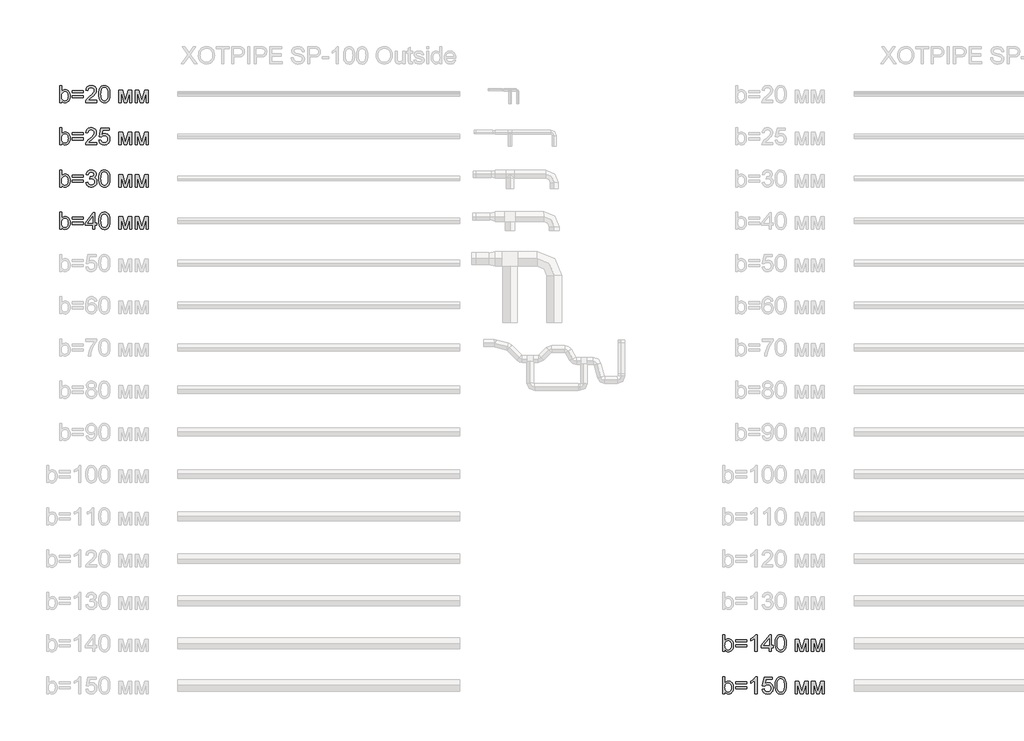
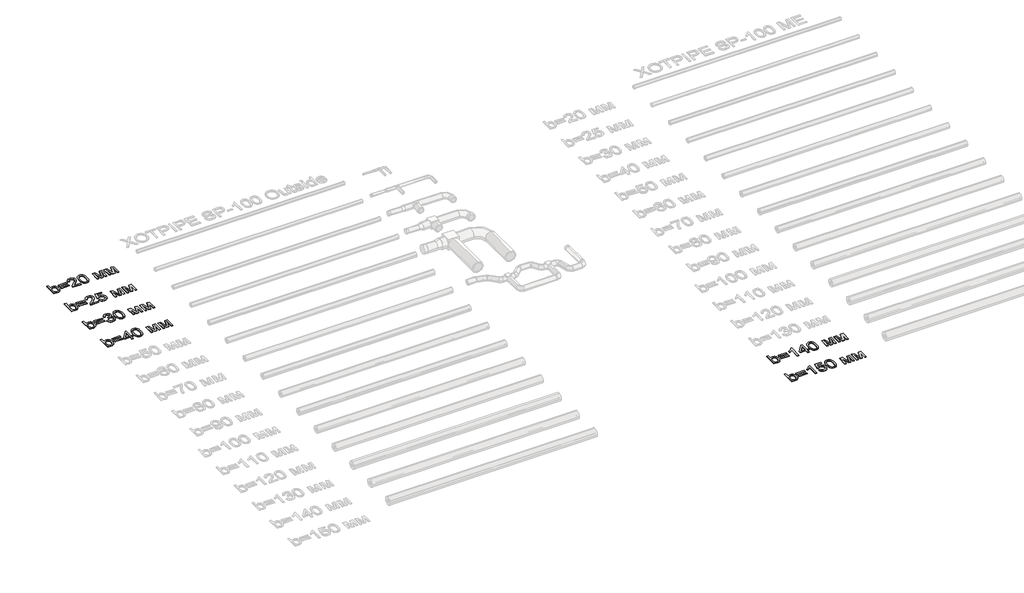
# One storey, part 52 of 86: 6 proxies.
"""IFC4 building model written with IfcOpenShell, lengths in millimetres."""

from ifc_helpers import new_model, si_unit, origin, origin_with_axes, place, context, project, spatial, polyline, outline, extrude, element, save

model = new_model("IFC4")

# Units and contexts
model_context = context("Model", 3, world=origin())
ifc_project = project(units=[si_unit("LENGTHUNIT", "METRE", prefix="MILLI")], contexts=[model_context])

# Site, building, storey
site = spatial("IfcSite", under=ifc_project)
building = spatial("IfcBuilding", under=site)
storey = spatial("IfcBuildingStorey", under=building, Name="Уровень 1", Elevation=0.0)

# Proxies
placement = place(None, origin())
element("IfcBuildingElementProxy", 1, Name="Текст модели 1", ObjectType="Текст модели 1", at=placement, inside=storey, context=model_context, shape_type="SweptSolid", body=[
    extrude(outline(polyline([(23159.6307988, 29169.2937088), (23084.2885662, 29169.2937088), (23084.2885662, 29772.0315697), (23159.6307988, 29772.0315697), (23159.6307988, 29548.5064694), (23184.4076512, 29580.3742473), (23212.3850769, 29603.1369457), (23243.563076, 29616.7945648), (23277.9416484, 29621.3471045), (23316.7531989, 29617.2452202), (23353.4310339, 29604.9395675), (23385.8782258, 29585.2026984), (23411.9978475, 29558.8071653), (23432.4704805, 29526.0104854), (23447.9767066, 29487.0701762), (23457.7439736, 29443.6049185), (23460.9997292, 29397.233393), (23457.6290105, 29343.7249568), (23447.5168541, 29296.6544555), (23430.6632602, 29256.0218892), (23407.0682288, 29221.8272577), (23378.7459136, 29194.7235517), (23347.7104688, 29175.3637617), (23313.9618943, 29163.7478877), (23277.50019, 29159.8759297), (23241.9903805, 29164.8699278), (23210.5088787, 29179.8519221), (23183.0556848, 29204.8219125), (23159.6307988, 29239.7798991), (23159.6307988, 29169.2937088)]), holes=[polyline([(23159.6307988, 29393.7017259), (23164.7811467, 29330.8674811), (23171.2190816, 29307.065516), (23180.2321905, 29288.3403224), (23198.4883345, 29265.0993774), (23219.7059286, 29248.4987024), (23243.8849727, 29238.5382973), (23271.0254669, 29235.2181623), (23293.5582391, 29237.6645776), (23314.5091188, 29245.0038234), (23333.8781058, 29257.2358997), (23351.6652003, 29274.3608066), (23366.5368299, 29296.3325588), (23377.1594225, 29323.105171), (23383.5329781, 29354.6786432), (23385.6574966, 29391.0529755), (23383.6203501, 29428.1170865), (23377.5089104, 29459.9940614), (23367.3231777, 29486.6839001), (23353.0631519, 29508.1866028), (23335.9152524, 29524.7320955), (23317.0658986, 29536.5503046), (23296.5150907, 29543.64123), (23274.2628285, 29546.0048719), (23251.7300563, 29543.5584566), (23230.7791767, 29536.2192108), (23211.4101896, 29523.9871344), (23193.6230951, 29506.8622276), (23178.7514655, 29485.1112046), (23168.1288729, 29459.00078), (23161.7553173, 29428.5309538), (23159.6307988, 29393.7017259)])]), origin_with_axes(), (0.0, 0.0, 1.0), 20.0),
    extrude(outline(polyline([(23931.8886831, 29517.7515346), (23536.3419619, 29517.7515346), (23536.3419619, 29593.0937672), (23931.8886831, 29593.0937672), (23931.8886831, 29517.7515346)])), origin_with_axes(), (0.0, 0.0, 1.0), 20.0),
    extrude(outline(polyline([(23931.8886831, 29338.8137322), (23536.3419619, 29338.8137322), (23536.3419619, 29414.1559648), (23931.8886831, 29414.1559648), (23931.8886831, 29338.8137322)])), origin_with_axes(), (0.0, 0.0, 1.0), 20.0),
    extrude(outline(polyline([(24402.7776369, 29244.6359414), (24402.7776369, 29169.2937088), (24007.2309157, 29169.2937088), (24008.8863847, 29195.8180007), (24015.3243196, 29221.2386465), (24033.9023603, 29261.8344247), (24061.0888398, 29301.2161923), (24100.4154251, 29342.4373698), (24155.4137833, 29388.5513779), (24236.7157043, 29460.7666136), (24285.4968568, 29514.0727147), (24299.724693, 29535.8513288), (24309.8874331, 29557.3356373), (24315.9850772, 29578.5256402), (24318.0176252, 29599.4213376), (24316.1000403, 29619.0800317), (24310.3472856, 29637.1476362), (24300.7593611, 29653.624151), (24287.3362668, 29668.5095763), (24270.8229638, 29680.8382216), (24251.964413, 29689.6443969), (24230.7606145, 29694.928102), (24207.2115683, 29696.6893371), (24182.4025262, 29694.9694888), (24160.2146434, 29689.8099438), (24140.6479198, 29681.2107021), (24123.7023554, 29669.1717638), (24109.9941525, 29654.0977991), (24100.1395136, 29636.3934781), (24094.1384385, 29616.0588008), (24091.9909274, 29593.0937672), (24016.6486948, 29602.5115463), (24023.1280164, 29641.4058703), (24034.9140358, 29675.3889696), (24052.006753, 29704.4608442), (24074.406168, 29728.6214943), (24101.597246, 29747.6134023), (24133.0649521, 29761.1790508), (24168.8092865, 29769.31844), (24208.830249, 29772.0315697), (24249.2098965, 29769.0149373), (24285.1473689, 29759.9650403), (24316.6426662, 29744.8818785), (24343.6957885, 29723.7654519), (24365.4238188, 29698.1792592), (24380.9438405, 29669.6867986), (24390.2558535, 29638.2880704), (24393.3598578, 29603.9830743), (24390.0121317, 29567.9490329), (24379.9689532, 29532.5403908), (24362.1450705, 29496.5247435), (24335.4552318, 29458.6696862), (24292.909679, 29413.4753831), (24227.5186544, 29355.4419984), (24140.8456563, 29282.9692453), (24106.85336, 29244.6359414), (24402.7776369, 29244.6359414)])), origin_with_axes(), (0.0, 0.0, 1.0), 20.0),
    extrude(outline(polyline([(24478.1198695, 29465.8065969), (24483.6564935, 29562.2836501), (24490.5772736, 29603.1967265), (24500.2663656, 29639.2261694), (24512.682383, 29670.6662845), (24527.7839389, 29697.8113772), (24545.5710333, 29720.6614476), (24566.0436664, 29739.2164957), (24589.2708158, 29753.5730906), (24615.3214596, 29763.8278012), (24644.1955977, 29769.9806276), (24675.8932301, 29772.0315697), (24722.3199379, 29767.1755274), (24763.8906034, 29752.6074004), (24798.6554519, 29728.8974058), (24824.664709, 29696.6157607), (24844.3096075, 29656.0383766), (24859.9813805, 29607.4411651), (24870.2452882, 29545.7289604), (24873.6665907, 29465.8065969), (24868.185149, 29369.8813667), (24861.3333468, 29329.106246), (24851.7408238, 29293.1227884), (24839.4213755, 29261.6688778), (24824.3887975, 29234.4823983), (24806.6430897, 29211.56335), (24786.1842523, 29192.9117329), (24762.9295116, 29178.458569), (24736.7960944, 29168.1348805), (24707.7840006, 29161.9406674), (24675.8932301, 29159.8759297), (24634.3961411, 29163.4627792), (24597.6079415, 29174.2233275), (24565.5286316, 29192.1575748), (24538.1582111, 29217.265521), (24511.8914367, 29262.6529621), (24493.1294549, 29319.2056218), (24481.8722659, 29386.9235001), (24478.1198695, 29465.8065969)]), holes=[polyline([(24553.4621021, 29465.9537497), (24555.6693941, 29400.456959), (24562.29127, 29347.440565), (24573.3277299, 29306.9045676), (24588.7787737, 29278.848967), (24607.467179, 29259.7604899), (24628.2157235, 29246.1258635), (24651.0244072, 29237.9450876), (24675.8932301, 29235.2181623), (24700.762053, 29237.9542847), (24723.5707367, 29246.1626517), (24744.3192812, 29259.8432634), (24763.0076866, 29278.9961198), (24778.4587304, 29307.0977057), (24789.4951902, 29347.624506), (24796.1170661, 29400.5765206), (24798.3243581, 29465.9537497), (24796.1906425, 29529.7168965), (24789.7894958, 29581.79979), (24779.120918, 29622.2024301), (24764.184909, 29650.9248169), (24745.8092033, 29670.9467945), (24724.8215355, 29685.248207), (24701.2219055, 29693.8290546), (24675.0103133, 29696.6893371), (24650.2702492, 29694.1693454), (24627.8478415, 29686.6093704), (24607.7430905, 29674.0094121), (24589.955996, 29656.3694704), (24573.9899175, 29625.0995008), (24562.5855756, 29582.9402242), (24555.7429705, 29529.8916405), (24553.4621021, 29465.9537497)])]), origin_with_axes(), (0.0, 0.0, 1.0), 20.0),
    extrude(outline(polyline([(25193.8710793, 29611.9293254), (25323.5126944, 29611.9293254), (25423.4294443, 29257.5853876), (25531.1452925, 29611.9293254), (25655.3422541, 29611.9293254), (25655.3422541, 29169.2937088), (25580.0000215, 29169.2937088), (25580.0000215, 29525.6977857), (25471.6955621, 29169.2937088), (25372.8088818, 29169.2937088), (25269.2133119, 29542.7675103), (25269.2133119, 29169.2937088), (25193.8710793, 29169.2937088), (25193.8710793, 29611.9293254)])), origin_with_axes(), (0.0, 0.0, 1.0), 20.0),
    extrude(outline(polyline([(25768.355603, 29611.9293254), (25897.9972181, 29611.9293254), (25997.913968, 29257.5853876), (26105.6298162, 29611.9293254), (26229.8267777, 29611.9293254), (26229.8267777, 29169.2937088), (26154.4845451, 29169.2937088), (26154.4845451, 29525.6977857), (26046.1800857, 29169.2937088), (25947.2934054, 29169.2937088), (25843.6978356, 29542.7675103), (25843.6978356, 29169.2937088), (25768.355603, 29169.2937088), (25768.355603, 29611.9293254)])), origin_with_axes(), (0.0, 0.0, 1.0), 20.0),
])
element("IfcBuildingElementProxy", 2, Name="Текст модели 1", ObjectType="Текст модели 1", at=placement, inside=storey, context=model_context, shape_type="SweptSolid", body=[
    extrude(outline(polyline([(23159.6307988, 27669.2937088), (23084.2885662, 27669.2937088), (23084.2885662, 28272.0315697), (23159.6307988, 28272.0315697), (23159.6307988, 28048.5064694), (23184.4076512, 28080.3742473), (23212.3850769, 28103.1369457), (23243.563076, 28116.7945648), (23277.9416484, 28121.3471045), (23316.7531989, 28117.2452202), (23353.4310339, 28104.9395675), (23385.8782258, 28085.2026984), (23411.9978475, 28058.8071653), (23432.4704805, 28026.0104854), (23447.9767066, 27987.0701762), (23457.7439736, 27943.6049185), (23460.9997292, 27897.233393), (23457.6290105, 27843.7249568), (23447.5168541, 27796.6544555), (23430.6632602, 27756.0218892), (23407.0682288, 27721.8272577), (23378.7459136, 27694.7235517), (23347.7104688, 27675.3637617), (23313.9618943, 27663.7478877), (23277.50019, 27659.8759297), (23241.9903805, 27664.8699278), (23210.5088787, 27679.8519221), (23183.0556848, 27704.8219125), (23159.6307988, 27739.7798991), (23159.6307988, 27669.2937088)]), holes=[polyline([(23159.6307988, 27893.7017259), (23164.7811467, 27830.8674811), (23171.2190816, 27807.065516), (23180.2321905, 27788.3403224), (23198.4883345, 27765.0993774), (23219.7059286, 27748.4987024), (23243.8849727, 27738.5382973), (23271.0254669, 27735.2181623), (23293.5582391, 27737.6645776), (23314.5091188, 27745.0038234), (23333.8781058, 27757.2358997), (23351.6652003, 27774.3608066), (23366.5368299, 27796.3325588), (23377.1594225, 27823.105171), (23383.5329781, 27854.6786432), (23385.6574966, 27891.0529755), (23383.6203501, 27928.1170865), (23377.5089104, 27959.9940614), (23367.3231777, 27986.6839001), (23353.0631519, 28008.1866028), (23335.9152524, 28024.7320955), (23317.0658986, 28036.5503046), (23296.5150907, 28043.64123), (23274.2628285, 28046.0048719), (23251.7300563, 28043.5584566), (23230.7791767, 28036.2192108), (23211.4101896, 28023.9871344), (23193.6230951, 28006.8622276), (23178.7514655, 27985.1112046), (23168.1288729, 27959.00078), (23161.7553173, 27928.5309538), (23159.6307988, 27893.7017259)])]), origin_with_axes(), (0.0, 0.0, 1.0), 20.0),
    extrude(outline(polyline([(23931.8886831, 28017.7515346), (23536.3419619, 28017.7515346), (23536.3419619, 28093.0937672), (23931.8886831, 28093.0937672), (23931.8886831, 28017.7515346)])), origin_with_axes(), (0.0, 0.0, 1.0), 20.0),
    extrude(outline(polyline([(23931.8886831, 27838.8137322), (23536.3419619, 27838.8137322), (23536.3419619, 27914.1559648), (23931.8886831, 27914.1559648), (23931.8886831, 27838.8137322)])), origin_with_axes(), (0.0, 0.0, 1.0), 20.0),
    extrude(outline(polyline([(24402.7776369, 27744.6359414), (24402.7776369, 27669.2937088), (24007.2309157, 27669.2937088), (24008.8863847, 27695.8180007), (24015.3243196, 27721.2386465), (24033.9023603, 27761.8344247), (24061.0888398, 27801.2161923), (24100.4154251, 27842.4373698), (24155.4137833, 27888.5513779), (24236.7157043, 27960.7666136), (24285.4968568, 28014.0727147), (24299.724693, 28035.8513288), (24309.8874331, 28057.3356373), (24315.9850772, 28078.5256402), (24318.0176252, 28099.4213376), (24316.1000403, 28119.0800317), (24310.3472856, 28137.1476362), (24300.7593611, 28153.624151), (24287.3362668, 28168.5095763), (24270.8229638, 28180.8382216), (24251.964413, 28189.6443969), (24230.7606145, 28194.928102), (24207.2115683, 28196.6893371), (24182.4025262, 28194.9694888), (24160.2146434, 28189.8099438), (24140.6479198, 28181.2107021), (24123.7023554, 28169.1717638), (24109.9941525, 28154.0977991), (24100.1395136, 28136.3934781), (24094.1384385, 28116.0588008), (24091.9909274, 28093.0937672), (24016.6486948, 28102.5115463), (24023.1280164, 28141.4058703), (24034.9140358, 28175.3889696), (24052.006753, 28204.4608442), (24074.406168, 28228.6214943), (24101.597246, 28247.6134023), (24133.0649521, 28261.1790508), (24168.8092865, 28269.31844), (24208.830249, 28272.0315697), (24249.2098965, 28269.0149373), (24285.1473689, 28259.9650403), (24316.6426662, 28244.8818785), (24343.6957885, 28223.7654519), (24365.4238188, 28198.1792592), (24380.9438405, 28169.6867986), (24390.2558535, 28138.2880704), (24393.3598578, 28103.9830743), (24390.0121317, 28067.9490329), (24379.9689532, 28032.5403908), (24362.1450705, 27996.5247435), (24335.4552318, 27958.6696862), (24292.909679, 27913.4753831), (24227.5186544, 27855.4419984), (24140.8456563, 27782.9692453), (24106.85336, 27744.6359414), (24402.7776369, 27744.6359414)])), origin_with_axes(), (0.0, 0.0, 1.0), 20.0),
    extrude(outline(polyline([(24478.1198695, 27829.3959531), (24553.4621021, 27838.8137322), (24559.0906966, 27814.5933013), (24567.2944651, 27793.5826409), (24578.0734076, 27775.7817508), (24591.427524, 27761.1906312), (24607.3292233, 27749.8276761), (24625.7509142, 27741.7112795), (24646.6925967, 27736.8414416), (24670.154271, 27735.2181623), (24698.8490666, 27737.4760381), (24724.1593479, 27744.2496653), (24746.0851148, 27755.539044), (24764.6263674, 27771.3441743), (24779.3692383, 27790.8833067), (24789.8998604, 27813.3746922), (24796.2182337, 27838.8183307), (24798.3243581, 27867.2142222), (24796.3515909, 27894.0512138), (24790.4332893, 27917.9083611), (24780.5694533, 27938.7856644), (24766.7600829, 27956.6831234), (24748.9591929, 27971.0397183), (24727.1207979, 27981.2944289), (24701.2448981, 27987.4472553), (24671.3314934, 27989.4981974), (24634.7824172, 27986.2240476), (24605.1863106, 27976.4015984), (24581.5498925, 27961.3552248), (24562.8798812, 27942.409302), (24487.5376486, 27951.8270811), (24553.4621021, 28262.6137906), (24845.4132535, 28262.6137906), (24845.4132535, 28187.271558), (24614.3833605, 28187.271558), (24582.1568977, 28021.2832018), (24608.7455689, 28040.3394891), (24635.9780336, 28053.951123), (24663.8542918, 28062.1181032), (24692.3743435, 28064.84043), (24729.065974, 28061.4651127), (24762.7685633, 28051.3391608), (24793.4821113, 28034.4625743), (24821.2066182, 28010.8353531), (24844.1578562, 27981.9014342), (24860.5515976, 27949.1047543), (24870.3878424, 27912.4453135), (24873.6665907, 27871.9231117), (24870.7143377, 27832.8908321), (24861.8575787, 27796.5808791), (24847.0963136, 27762.993253), (24826.4305425, 27732.1279536), (24795.1237848, 27700.5176931), (24758.5931026, 27677.9389357), (24716.8384962, 27664.3916812), (24669.8599654, 27659.8759297), (24630.979437, 27662.777599), (24595.8605021, 27671.4826067), (24564.5031605, 27685.9909529), (24536.9074123, 27706.3026375), (24513.9469773, 27731.4059852), (24496.4955752, 27760.2893203), (24484.5532059, 27792.952643), (24478.1198695, 27829.3959531)])), origin_with_axes(), (0.0, 0.0, 1.0), 20.0),
    extrude(outline(polyline([(25193.8710793, 28111.9293254), (25323.5126944, 28111.9293254), (25423.4294443, 27757.5853876), (25531.1452925, 28111.9293254), (25655.3422541, 28111.9293254), (25655.3422541, 27669.2937088), (25580.0000215, 27669.2937088), (25580.0000215, 28025.6977857), (25471.6955621, 27669.2937088), (25372.8088818, 27669.2937088), (25269.2133119, 28042.7675103), (25269.2133119, 27669.2937088), (25193.8710793, 27669.2937088), (25193.8710793, 28111.9293254)])), origin_with_axes(), (0.0, 0.0, 1.0), 20.0),
    extrude(outline(polyline([(25768.355603, 28111.9293254), (25897.9972181, 28111.9293254), (25997.913968, 27757.5853876), (26105.6298162, 28111.9293254), (26229.8267777, 28111.9293254), (26229.8267777, 27669.2937088), (26154.4845451, 27669.2937088), (26154.4845451, 28025.6977857), (26046.1800857, 27669.2937088), (25947.2934054, 27669.2937088), (25843.6978356, 28042.7675103), (25843.6978356, 27669.2937088), (25768.355603, 27669.2937088), (25768.355603, 28111.9293254)])), origin_with_axes(), (0.0, 0.0, 1.0), 20.0),
])
element("IfcBuildingElementProxy", 3, Name="Текст модели 1", ObjectType="Текст модели 1", at=placement, inside=storey, context=model_context, shape_type="SweptSolid", body=[
    extrude(outline(polyline([(23159.6307988, 26169.2937088), (23084.2885662, 26169.2937088), (23084.2885662, 26772.0315697), (23159.6307988, 26772.0315697), (23159.6307988, 26548.5064694), (23184.4076512, 26580.3742473), (23212.3850769, 26603.1369457), (23243.563076, 26616.7945648), (23277.9416484, 26621.3471045), (23316.7531989, 26617.2452202), (23353.4310339, 26604.9395675), (23385.8782258, 26585.2026984), (23411.9978475, 26558.8071653), (23432.4704805, 26526.0104854), (23447.9767066, 26487.0701762), (23457.7439736, 26443.6049185), (23460.9997292, 26397.233393), (23457.6290105, 26343.7249568), (23447.5168541, 26296.6544555), (23430.6632602, 26256.0218892), (23407.0682288, 26221.8272577), (23378.7459136, 26194.7235517), (23347.7104688, 26175.3637617), (23313.9618943, 26163.7478877), (23277.50019, 26159.8759297), (23241.9903805, 26164.8699278), (23210.5088787, 26179.8519221), (23183.0556848, 26204.8219125), (23159.6307988, 26239.7798991), (23159.6307988, 26169.2937088)]), holes=[polyline([(23159.6307988, 26393.7017259), (23164.7811467, 26330.8674811), (23171.2190816, 26307.065516), (23180.2321905, 26288.3403224), (23198.4883345, 26265.0993774), (23219.7059286, 26248.4987024), (23243.8849727, 26238.5382973), (23271.0254669, 26235.2181623), (23293.5582391, 26237.6645776), (23314.5091188, 26245.0038234), (23333.8781058, 26257.2358997), (23351.6652003, 26274.3608066), (23366.5368299, 26296.3325588), (23377.1594225, 26323.105171), (23383.5329781, 26354.6786432), (23385.6574966, 26391.0529755), (23383.6203501, 26428.1170865), (23377.5089104, 26459.9940614), (23367.3231777, 26486.6839001), (23353.0631519, 26508.1866028), (23335.9152524, 26524.7320955), (23317.0658986, 26536.5503046), (23296.5150907, 26543.64123), (23274.2628285, 26546.0048719), (23251.7300563, 26543.5584566), (23230.7791767, 26536.2192108), (23211.4101896, 26523.9871344), (23193.6230951, 26506.8622276), (23178.7514655, 26485.1112046), (23168.1288729, 26459.00078), (23161.7553173, 26428.5309538), (23159.6307988, 26393.7017259)])]), origin_with_axes(), (0.0, 0.0, 1.0), 20.0),
    extrude(outline(polyline([(23931.8886831, 26517.7515346), (23536.3419619, 26517.7515346), (23536.3419619, 26593.0937672), (23931.8886831, 26593.0937672), (23931.8886831, 26517.7515346)])), origin_with_axes(), (0.0, 0.0, 1.0), 20.0),
    extrude(outline(polyline([(23931.8886831, 26338.8137322), (23536.3419619, 26338.8137322), (23536.3419619, 26414.1559648), (23931.8886831, 26414.1559648), (23931.8886831, 26338.8137322)])), origin_with_axes(), (0.0, 0.0, 1.0), 20.0),
    extrude(outline(polyline([(24016.6486948, 26329.3959531), (24091.9909274, 26338.8137322), (24108.8583168, 26291.4673194), (24120.230469, 26273.5606633), (24133.5615928, 26259.498374), (24149.1551909, 26248.8757814), (24167.3147659, 26241.2882153), (24188.0403178, 26236.7356756), (24211.3318466, 26235.2181623), (24238.6286906, 26237.3058927), (24262.9824787, 26243.5690836), (24284.3932108, 26254.0077352), (24302.860887, 26268.6218475), (24317.7325167, 26286.3169715), (24328.3551093, 26305.9986582), (24334.7286648, 26327.6669077), (24336.8531834, 26351.32172), (24334.7470589, 26373.8498937), (24328.4286857, 26394.3455193), (24317.8980636, 26412.808597), (24303.1551926, 26429.2391266), (24285.165763, 26442.7266002), (24264.8954651, 26452.36051), (24242.3442988, 26458.1408558), (24217.5122641, 26460.0676378), (24193.710299, 26458.0074986), (24164.6844096, 26451.8270811), (24173.0721191, 26527.1693137), (24185.1386485, 26526.2863969), (24230.2777694, 26531.6942622), (24270.6344242, 26547.9178582), (24287.2442963, 26560.1867228), (24299.1084907, 26575.3618551), (24306.2270073, 26593.4432551), (24308.5998461, 26614.430923), (24306.8799978, 26631.4684579), (24301.7204528, 26646.9700854), (24293.1212112, 26660.9358057), (24281.0822729, 26673.3656186), (24266.3302049, 26683.5697454), (24249.5915741, 26690.8584075), (24210.1546242, 26696.6893371), (24189.4980502, 26695.2178091), (24170.6440979, 26690.8032252), (24153.5927675, 26683.4455853), (24138.3440588, 26673.1448894), (24125.2750509, 26659.9011376), (24114.7628229, 26643.7143298), (24106.8073747, 26624.584466), (24101.4087064, 26602.5115463), (24026.0664738, 26611.9293254), (24034.9968093, 26647.8989875), (24048.2497581, 26679.5828243), (24065.8253205, 26706.9808359), (24087.7234962, 26730.0930222), (24113.2545067, 26748.4411368), (24141.7285731, 26761.5469328), (24173.1456955, 26769.4104105), (24207.5058739, 26772.0315697), (24254.8706807, 26766.8628277), (24298.3727267, 26751.3566016), (24335.0505616, 26726.8924489), (24361.9427354, 26694.8499271), (24378.4422429, 26657.9329689), (24383.9420787, 26618.8455069), (24378.7181544, 26582.4251894), (24363.0463814, 26549.3893862), (24337.147489, 26521.2464136), (24301.2422062, 26499.5045877), (24326.3501524, 26491.6503071), (24348.404678, 26480.4483003), (24367.4057831, 26465.8985674), (24383.3534676, 26448.0011083), (24395.97182, 26427.1973815), (24404.9849289, 26403.9288453), (24410.3927942, 26378.1954998), (24412.195416, 26349.9973448), (24408.5901724, 26311.7744055), (24397.7744418, 26276.5680986), (24379.748224, 26244.378424), (24354.5115191, 26215.2053818), (24323.7657814, 26190.9987465), (24289.212465, 26173.7082927), (24250.8515699, 26163.3340205), (24208.6830962, 26159.8759297), (24170.5705215, 26162.8281827), (24135.8424612, 26171.6849418), (24104.4989152, 26186.4462068), (24076.5398836, 26207.1119779), (24053.0966034, 26232.4682444), (24035.3003119, 26261.3009958), (24023.151009, 26293.610232), (24016.6486948, 26329.3959531)])), origin_with_axes(), (0.0, 0.0, 1.0), 20.0),
    extrude(outline(polyline([(24478.1198695, 26465.8065969), (24483.6564935, 26562.2836501), (24490.5772736, 26603.1967265), (24500.2663656, 26639.2261694), (24512.682383, 26670.6662845), (24527.7839389, 26697.8113772), (24545.5710333, 26720.6614476), (24566.0436664, 26739.2164957), (24589.2708158, 26753.5730906), (24615.3214596, 26763.8278012), (24644.1955977, 26769.9806276), (24675.8932301, 26772.0315697), (24722.3199379, 26767.1755274), (24763.8906034, 26752.6074004), (24798.6554519, 26728.8974058), (24824.664709, 26696.6157607), (24844.3096075, 26656.0383766), (24859.9813805, 26607.4411651), (24870.2452882, 26545.7289604), (24873.6665907, 26465.8065969), (24868.185149, 26369.8813667), (24861.3333468, 26329.106246), (24851.7408238, 26293.1227884), (24839.4213755, 26261.6688778), (24824.3887975, 26234.4823983), (24806.6430897, 26211.56335), (24786.1842523, 26192.9117329), (24762.9295116, 26178.458569), (24736.7960944, 26168.1348805), (24707.7840006, 26161.9406674), (24675.8932301, 26159.8759297), (24634.3961411, 26163.4627792), (24597.6079415, 26174.2233275), (24565.5286316, 26192.1575748), (24538.1582111, 26217.265521), (24511.8914367, 26262.6529621), (24493.1294549, 26319.2056218), (24481.8722659, 26386.9235001), (24478.1198695, 26465.8065969)]), holes=[polyline([(24553.4621021, 26465.9537497), (24555.6693941, 26400.456959), (24562.29127, 26347.440565), (24573.3277299, 26306.9045676), (24588.7787737, 26278.848967), (24607.467179, 26259.7604899), (24628.2157235, 26246.1258635), (24651.0244072, 26237.9450876), (24675.8932301, 26235.2181623), (24700.762053, 26237.9542847), (24723.5707367, 26246.1626517), (24744.3192812, 26259.8432634), (24763.0076866, 26278.9961198), (24778.4587304, 26307.0977057), (24789.4951902, 26347.624506), (24796.1170661, 26400.5765206), (24798.3243581, 26465.9537497), (24796.1906425, 26529.7168965), (24789.7894958, 26581.79979), (24779.120918, 26622.2024301), (24764.184909, 26650.9248169), (24745.8092033, 26670.9467945), (24724.8215355, 26685.248207), (24701.2219055, 26693.8290546), (24675.0103133, 26696.6893371), (24650.2702492, 26694.1693454), (24627.8478415, 26686.6093704), (24607.7430905, 26674.0094121), (24589.955996, 26656.3694704), (24573.9899175, 26625.0995008), (24562.5855756, 26582.9402242), (24555.7429705, 26529.8916405), (24553.4621021, 26465.9537497)])]), origin_with_axes(), (0.0, 0.0, 1.0), 20.0),
    extrude(outline(polyline([(25193.8710793, 26611.9293254), (25323.5126944, 26611.9293254), (25423.4294443, 26257.5853876), (25531.1452925, 26611.9293254), (25655.3422541, 26611.9293254), (25655.3422541, 26169.2937088), (25580.0000215, 26169.2937088), (25580.0000215, 26525.6977857), (25471.6955621, 26169.2937088), (25372.8088818, 26169.2937088), (25269.2133119, 26542.7675103), (25269.2133119, 26169.2937088), (25193.8710793, 26169.2937088), (25193.8710793, 26611.9293254)])), origin_with_axes(), (0.0, 0.0, 1.0), 20.0),
    extrude(outline(polyline([(25768.355603, 26611.9293254), (25897.9972181, 26611.9293254), (25997.913968, 26257.5853876), (26105.6298162, 26611.9293254), (26229.8267777, 26611.9293254), (26229.8267777, 26169.2937088), (26154.4845451, 26169.2937088), (26154.4845451, 26525.6977857), (26046.1800857, 26169.2937088), (25947.2934054, 26169.2937088), (25843.6978356, 26542.7675103), (25843.6978356, 26169.2937088), (25768.355603, 26169.2937088), (25768.355603, 26611.9293254)])), origin_with_axes(), (0.0, 0.0, 1.0), 20.0),
])
element("IfcBuildingElementProxy", 4, Name="Текст модели 1", ObjectType="Текст модели 1", at=placement, inside=storey, context=model_context, shape_type="SweptSolid", body=[
    extrude(outline(polyline([(23159.6307988, 24669.2937088), (23084.2885662, 24669.2937088), (23084.2885662, 25272.0315697), (23159.6307988, 25272.0315697), (23159.6307988, 25048.5064694), (23184.4076512, 25080.3742473), (23212.3850769, 25103.1369457), (23243.563076, 25116.7945648), (23277.9416484, 25121.3471045), (23316.7531989, 25117.2452202), (23353.4310339, 25104.9395675), (23385.8782258, 25085.2026984), (23411.9978475, 25058.8071653), (23432.4704805, 25026.0104854), (23447.9767066, 24987.0701762), (23457.7439736, 24943.6049185), (23460.9997292, 24897.233393), (23457.6290105, 24843.7249568), (23447.5168541, 24796.6544555), (23430.6632602, 24756.0218892), (23407.0682288, 24721.8272577), (23378.7459136, 24694.7235517), (23347.7104688, 24675.3637617), (23313.9618943, 24663.7478877), (23277.50019, 24659.8759297), (23241.9903805, 24664.8699278), (23210.5088787, 24679.8519221), (23183.0556848, 24704.8219125), (23159.6307988, 24739.7798991), (23159.6307988, 24669.2937088)]), holes=[polyline([(23159.6307988, 24893.7017259), (23164.7811467, 24830.8674811), (23171.2190816, 24807.065516), (23180.2321905, 24788.3403224), (23198.4883345, 24765.0993774), (23219.7059286, 24748.4987024), (23243.8849727, 24738.5382973), (23271.0254669, 24735.2181623), (23293.5582391, 24737.6645776), (23314.5091188, 24745.0038234), (23333.8781058, 24757.2358997), (23351.6652003, 24774.3608066), (23366.5368299, 24796.3325588), (23377.1594225, 24823.105171), (23383.5329781, 24854.6786432), (23385.6574966, 24891.0529755), (23383.6203501, 24928.1170865), (23377.5089104, 24959.9940614), (23367.3231777, 24986.6839001), (23353.0631519, 25008.1866028), (23335.9152524, 25024.7320955), (23317.0658986, 25036.5503046), (23296.5150907, 25043.64123), (23274.2628285, 25046.0048719), (23251.7300563, 25043.5584566), (23230.7791767, 25036.2192108), (23211.4101896, 25023.9871344), (23193.6230951, 25006.8622276), (23178.7514655, 24985.1112046), (23168.1288729, 24959.00078), (23161.7553173, 24928.5309538), (23159.6307988, 24893.7017259)])]), origin_with_axes(), (0.0, 0.0, 1.0), 20.0),
    extrude(outline(polyline([(23931.8886831, 25017.7515346), (23536.3419619, 25017.7515346), (23536.3419619, 25093.0937672), (23931.8886831, 25093.0937672), (23931.8886831, 25017.7515346)])), origin_with_axes(), (0.0, 0.0, 1.0), 20.0),
    extrude(outline(polyline([(23931.8886831, 24838.8137322), (23536.3419619, 24838.8137322), (23536.3419619, 24914.1559648), (23931.8886831, 24914.1559648), (23931.8886831, 24838.8137322)])), origin_with_axes(), (0.0, 0.0, 1.0), 20.0),
    extrude(outline(polyline([(24261.5109507, 24669.2937088), (24261.5109507, 24810.5603949), (23988.3953575, 24810.5603949), (23988.3953575, 24885.9026276), (24280.3465089, 25262.6137906), (24336.8531834, 25262.6137906), (24336.8531834, 24885.9026276), (24412.195416, 24885.9026276), (24412.195416, 24810.5603949), (24336.8531834, 24810.5603949), (24336.8531834, 24669.2937088), (24261.5109507, 24669.2937088)]), holes=[polyline([(24261.5109507, 24885.9026276), (24261.5109507, 25118.6983541), (24081.1016203, 24885.9026276), (24261.5109507, 24885.9026276)])]), origin_with_axes(), (0.0, 0.0, 1.0), 20.0),
    extrude(outline(polyline([(24478.1198695, 24965.8065969), (24483.6564935, 25062.2836501), (24490.5772736, 25103.1967265), (24500.2663656, 25139.2261694), (24512.682383, 25170.6662845), (24527.7839389, 25197.8113772), (24545.5710333, 25220.6614476), (24566.0436664, 25239.2164957), (24589.2708158, 25253.5730906), (24615.3214596, 25263.8278012), (24644.1955977, 25269.9806276), (24675.8932301, 25272.0315697), (24722.3199379, 25267.1755274), (24763.8906034, 25252.6074004), (24798.6554519, 25228.8974058), (24824.664709, 25196.6157607), (24844.3096075, 25156.0383766), (24859.9813805, 25107.4411651), (24870.2452882, 25045.7289604), (24873.6665907, 24965.8065969), (24868.185149, 24869.8813667), (24861.3333468, 24829.106246), (24851.7408238, 24793.1227884), (24839.4213755, 24761.6688778), (24824.3887975, 24734.4823983), (24806.6430897, 24711.56335), (24786.1842523, 24692.9117329), (24762.9295116, 24678.458569), (24736.7960944, 24668.1348805), (24707.7840006, 24661.9406674), (24675.8932301, 24659.8759297), (24634.3961411, 24663.4627792), (24597.6079415, 24674.2233275), (24565.5286316, 24692.1575748), (24538.1582111, 24717.265521), (24511.8914367, 24762.6529621), (24493.1294549, 24819.2056218), (24481.8722659, 24886.9235001), (24478.1198695, 24965.8065969)]), holes=[polyline([(24553.4621021, 24965.9537497), (24555.6693941, 24900.456959), (24562.29127, 24847.440565), (24573.3277299, 24806.9045676), (24588.7787737, 24778.848967), (24607.467179, 24759.7604899), (24628.2157235, 24746.1258635), (24651.0244072, 24737.9450876), (24675.8932301, 24735.2181623), (24700.762053, 24737.9542847), (24723.5707367, 24746.1626517), (24744.3192812, 24759.8432634), (24763.0076866, 24778.9961198), (24778.4587304, 24807.0977057), (24789.4951902, 24847.624506), (24796.1170661, 24900.5765206), (24798.3243581, 24965.9537497), (24796.1906425, 25029.7168965), (24789.7894958, 25081.79979), (24779.120918, 25122.2024301), (24764.184909, 25150.9248169), (24745.8092033, 25170.9467945), (24724.8215355, 25185.248207), (24701.2219055, 25193.8290546), (24675.0103133, 25196.6893371), (24650.2702492, 25194.1693454), (24627.8478415, 25186.6093704), (24607.7430905, 25174.0094121), (24589.955996, 25156.3694704), (24573.9899175, 25125.0995008), (24562.5855756, 25082.9402242), (24555.7429705, 25029.8916405), (24553.4621021, 24965.9537497)])]), origin_with_axes(), (0.0, 0.0, 1.0), 20.0),
    extrude(outline(polyline([(25193.8710793, 25111.9293254), (25323.5126944, 25111.9293254), (25423.4294443, 24757.5853876), (25531.1452925, 25111.9293254), (25655.3422541, 25111.9293254), (25655.3422541, 24669.2937088), (25580.0000215, 24669.2937088), (25580.0000215, 25025.6977857), (25471.6955621, 24669.2937088), (25372.8088818, 24669.2937088), (25269.2133119, 25042.7675103), (25269.2133119, 24669.2937088), (25193.8710793, 24669.2937088), (25193.8710793, 25111.9293254)])), origin_with_axes(), (0.0, 0.0, 1.0), 20.0),
    extrude(outline(polyline([(25768.355603, 25111.9293254), (25897.9972181, 25111.9293254), (25997.913968, 24757.5853876), (26105.6298162, 25111.9293254), (26229.8267777, 25111.9293254), (26229.8267777, 24669.2937088), (26154.4845451, 24669.2937088), (26154.4845451, 25025.6977857), (26046.1800857, 24669.2937088), (25947.2934054, 24669.2937088), (25843.6978356, 25042.7675103), (25843.6978356, 24669.2937088), (25768.355603, 24669.2937088), (25768.355603, 25111.9293254)])), origin_with_axes(), (0.0, 0.0, 1.0), 20.0),
])
element("IfcBuildingElementProxy", 5, Name="Текст модели 1", ObjectType="Текст модели 1", at=placement, inside=storey, context=model_context, shape_type="SweptSolid", body=[
    extrude(outline(polyline([(46698.159624, 9669.2937088), (46622.8173914, 9669.2937088), (46622.8173914, 10272.0315697), (46698.159624, 10272.0315697), (46698.159624, 10048.5064694), (46722.9364764, 10080.3742473), (46750.9139022, 10103.1369457), (46782.0919012, 10116.7945648), (46816.4704737, 10121.3471045), (46855.2820242, 10117.2452202), (46891.9598591, 10104.9395675), (46924.4070511, 10085.2026984), (46950.5266727, 10058.8071653), (46970.9993058, 10026.0104854), (46986.5055319, 9987.0701762), (46996.2727988, 9943.6049185), (46999.5285545, 9897.233393), (46996.1578357, 9843.7249568), (46986.0456794, 9796.6544555), (46969.1920855, 9756.0218892), (46945.597054, 9721.8272577), (46917.2747389, 9694.7235517), (46886.2392941, 9675.3637617), (46852.4907195, 9663.7478877), (46816.0290153, 9659.8759297), (46780.5192057, 9664.8699278), (46749.037704, 9679.8519221), (46721.5845101, 9704.8219125), (46698.159624, 9739.7798991), (46698.159624, 9669.2937088)]), holes=[polyline([(46698.159624, 9893.7017259), (46703.309972, 9830.8674811), (46709.7479069, 9807.065516), (46718.7610158, 9788.3403224), (46737.0171598, 9765.0993774), (46758.2347539, 9748.4987024), (46782.413798, 9738.5382973), (46809.5542922, 9735.2181623), (46832.0870644, 9737.6645776), (46853.037944, 9745.0038234), (46872.4069311, 9757.2358997), (46890.1940255, 9774.3608066), (46905.0656552, 9796.3325588), (46915.6882478, 9823.105171), (46922.0618034, 9854.6786432), (46924.1863219, 9891.0529755), (46922.1491753, 9928.1170865), (46916.0377357, 9959.9940614), (46905.8520029, 9986.6839001), (46891.5919771, 10008.1866028), (46874.4440776, 10024.7320955), (46855.5947239, 10036.5503046), (46835.0439159, 10043.64123), (46812.7916537, 10046.0048719), (46790.2588815, 10043.5584566), (46769.3080019, 10036.2192108), (46749.9390149, 10023.9871344), (46732.1519204, 10006.8622276), (46717.2802907, 9985.1112046), (46706.6576981, 9959.00078), (46700.2841426, 9928.5309538), (46698.159624, 9893.7017259)])]), origin_with_axes(), (0.0, 0.0, 1.0), 20.0),
    extrude(outline(polyline([(47470.4175083, 10017.7515346), (47074.8707871, 10017.7515346), (47074.8707871, 10093.0937672), (47470.4175083, 10093.0937672), (47470.4175083, 10017.7515346)])), origin_with_axes(), (0.0, 0.0, 1.0), 20.0),
    extrude(outline(polyline([(47470.4175083, 9838.8137322), (47074.8707871, 9838.8137322), (47074.8707871, 9914.1559648), (47470.4175083, 9914.1559648), (47470.4175083, 9838.8137322)])), origin_with_axes(), (0.0, 0.0, 1.0), 20.0),
    extrude(outline(polyline([(47837.7108923, 9669.2937088), (47762.3686597, 9669.2937088), (47762.3686597, 10139.0054402), (47730.9147491, 10113.5664003), (47690.9995526, 10088.1641485), (47649.0977934, 10065.9624701), (47611.6841945, 10050.1251502), (47611.6841945, 10121.3471045), (47670.8580134, 10153.5367791), (47722.1223694, 10191.8332947), (47762.5342066, 10232.5578316), (47789.1504689, 10272.0315697), (47837.7108923, 10272.0315697), (47837.7108923, 9669.2937088)])), origin_with_axes(), (0.0, 0.0, 1.0), 20.0),
    extrude(outline(polyline([(48261.5109507, 9669.2937088), (48261.5109507, 9810.5603949), (47988.3953575, 9810.5603949), (47988.3953575, 9885.9026276), (48280.3465089, 10262.6137906), (48336.8531834, 10262.6137906), (48336.8531834, 9885.9026276), (48412.195416, 9885.9026276), (48412.195416, 9810.5603949), (48336.8531834, 9810.5603949), (48336.8531834, 9669.2937088), (48261.5109507, 9669.2937088)]), holes=[polyline([(48261.5109507, 9885.9026276), (48261.5109507, 10118.6983541), (48081.1016203, 9885.9026276), (48261.5109507, 9885.9026276)])]), origin_with_axes(), (0.0, 0.0, 1.0), 20.0),
    extrude(outline(polyline([(48478.1198695, 9965.8065969), (48483.6564935, 10062.2836501), (48490.5772736, 10103.1967265), (48500.2663656, 10139.2261694), (48512.682383, 10170.6662845), (48527.7839389, 10197.8113772), (48545.5710333, 10220.6614476), (48566.0436664, 10239.2164957), (48589.2708158, 10253.5730906), (48615.3214596, 10263.8278012), (48644.1955977, 10269.9806276), (48675.8932301, 10272.0315697), (48722.3199379, 10267.1755274), (48763.8906034, 10252.6074004), (48798.6554519, 10228.8974058), (48824.664709, 10196.6157607), (48844.3096075, 10156.0383766), (48859.9813805, 10107.4411651), (48870.2452882, 10045.7289604), (48873.6665907, 9965.8065969), (48868.185149, 9869.8813667), (48861.3333468, 9829.106246), (48851.7408238, 9793.1227884), (48839.4213755, 9761.6688778), (48824.3887975, 9734.4823983), (48806.6430897, 9711.56335), (48786.1842523, 9692.9117329), (48762.9295116, 9678.458569), (48736.7960944, 9668.1348805), (48707.7840006, 9661.9406674), (48675.8932301, 9659.8759297), (48634.3961411, 9663.4627792), (48597.6079415, 9674.2233275), (48565.5286316, 9692.1575748), (48538.1582111, 9717.265521), (48511.8914367, 9762.6529621), (48493.1294549, 9819.2056218), (48481.8722659, 9886.9235001), (48478.1198695, 9965.8065969)]), holes=[polyline([(48553.4621021, 9965.9537497), (48555.6693941, 9900.456959), (48562.29127, 9847.440565), (48573.3277299, 9806.9045676), (48588.7787737, 9778.848967), (48607.467179, 9759.7604899), (48628.2157235, 9746.1258635), (48651.0244072, 9737.9450876), (48675.8932301, 9735.2181623), (48700.762053, 9737.9542847), (48723.5707367, 9746.1626517), (48744.3192812, 9759.8432634), (48763.0076866, 9778.9961198), (48778.4587304, 9807.0977057), (48789.4951902, 9847.624506), (48796.1170661, 9900.5765206), (48798.3243581, 9965.9537497), (48796.1906425, 10029.7168965), (48789.7894958, 10081.79979), (48779.120918, 10122.2024301), (48764.184909, 10150.9248169), (48745.8092033, 10170.9467945), (48724.8215355, 10185.248207), (48701.2219055, 10193.8290546), (48675.0103133, 10196.6893371), (48650.2702492, 10194.1693454), (48627.8478415, 10186.6093704), (48607.7430905, 10174.0094121), (48589.955996, 10156.3694704), (48573.9899175, 10125.0995008), (48562.5855756, 10082.9402242), (48555.7429705, 10029.8916405), (48553.4621021, 9965.9537497)])]), origin_with_axes(), (0.0, 0.0, 1.0), 20.0),
    extrude(outline(polyline([(49193.8710793, 10111.9293254), (49323.5126944, 10111.9293254), (49423.4294443, 9757.5853876), (49531.1452925, 10111.9293254), (49655.3422541, 10111.9293254), (49655.3422541, 9669.2937088), (49580.0000215, 9669.2937088), (49580.0000215, 10025.6977857), (49471.6955621, 9669.2937088), (49372.8088818, 9669.2937088), (49269.2133119, 10042.7675103), (49269.2133119, 9669.2937088), (49193.8710793, 9669.2937088), (49193.8710793, 10111.9293254)])), origin_with_axes(), (0.0, 0.0, 1.0), 20.0),
    extrude(outline(polyline([(49768.355603, 10111.9293254), (49897.9972181, 10111.9293254), (49997.913968, 9757.5853876), (50105.6298162, 10111.9293254), (50229.8267777, 10111.9293254), (50229.8267777, 9669.2937088), (50154.4845451, 9669.2937088), (50154.4845451, 10025.6977857), (50046.1800857, 9669.2937088), (49947.2934054, 9669.2937088), (49843.6978356, 10042.7675103), (49843.6978356, 9669.2937088), (49768.355603, 9669.2937088), (49768.355603, 10111.9293254)])), origin_with_axes(), (0.0, 0.0, 1.0), 20.0),
])
element("IfcBuildingElementProxy", 6, Name="Текст модели 1", ObjectType="Текст модели 1", at=placement, inside=storey, context=model_context, shape_type="SweptSolid", body=[
    extrude(outline(polyline([(46698.159624, 8169.2937088), (46622.8173914, 8169.2937088), (46622.8173914, 8772.0315697), (46698.159624, 8772.0315697), (46698.159624, 8548.5064694), (46722.9364764, 8580.3742473), (46750.9139022, 8603.1369457), (46782.0919012, 8616.7945648), (46816.4704737, 8621.3471045), (46855.2820242, 8617.2452202), (46891.9598591, 8604.9395675), (46924.4070511, 8585.2026984), (46950.5266727, 8558.8071653), (46970.9993058, 8526.0104854), (46986.5055319, 8487.0701762), (46996.2727988, 8443.6049185), (46999.5285545, 8397.233393), (46996.1578357, 8343.7249568), (46986.0456794, 8296.6544555), (46969.1920855, 8256.0218892), (46945.597054, 8221.8272577), (46917.2747389, 8194.7235517), (46886.2392941, 8175.3637617), (46852.4907195, 8163.7478877), (46816.0290153, 8159.8759297), (46780.5192057, 8164.8699278), (46749.037704, 8179.8519221), (46721.5845101, 8204.8219125), (46698.159624, 8239.7798991), (46698.159624, 8169.2937088)]), holes=[polyline([(46698.159624, 8393.7017259), (46703.309972, 8330.8674811), (46709.7479069, 8307.065516), (46718.7610158, 8288.3403224), (46737.0171598, 8265.0993774), (46758.2347539, 8248.4987024), (46782.413798, 8238.5382973), (46809.5542922, 8235.2181623), (46832.0870644, 8237.6645776), (46853.037944, 8245.0038234), (46872.4069311, 8257.2358997), (46890.1940255, 8274.3608066), (46905.0656552, 8296.3325588), (46915.6882478, 8323.105171), (46922.0618034, 8354.6786432), (46924.1863219, 8391.0529755), (46922.1491753, 8428.1170865), (46916.0377357, 8459.9940614), (46905.8520029, 8486.6839001), (46891.5919771, 8508.1866028), (46874.4440776, 8524.7320955), (46855.5947239, 8536.5503046), (46835.0439159, 8543.64123), (46812.7916537, 8546.0048719), (46790.2588815, 8543.5584566), (46769.3080019, 8536.2192108), (46749.9390149, 8523.9871344), (46732.1519204, 8506.8622276), (46717.2802907, 8485.1112046), (46706.6576981, 8459.00078), (46700.2841426, 8428.5309538), (46698.159624, 8393.7017259)])]), origin_with_axes(), (0.0, 0.0, 1.0), 20.0),
    extrude(outline(polyline([(47470.4175083, 8517.7515346), (47074.8707871, 8517.7515346), (47074.8707871, 8593.0937672), (47470.4175083, 8593.0937672), (47470.4175083, 8517.7515346)])), origin_with_axes(), (0.0, 0.0, 1.0), 20.0),
    extrude(outline(polyline([(47470.4175083, 8338.8137322), (47074.8707871, 8338.8137322), (47074.8707871, 8414.1559648), (47470.4175083, 8414.1559648), (47470.4175083, 8338.8137322)])), origin_with_axes(), (0.0, 0.0, 1.0), 20.0),
    extrude(outline(polyline([(47837.7108923, 8169.2937088), (47762.3686597, 8169.2937088), (47762.3686597, 8639.0054402), (47730.9147491, 8613.5664003), (47690.9995526, 8588.1641485), (47649.0977934, 8565.9624701), (47611.6841945, 8550.1251502), (47611.6841945, 8621.3471045), (47670.8580134, 8653.5367791), (47722.1223694, 8691.8332947), (47762.5342066, 8732.5578316), (47789.1504689, 8772.0315697), (47837.7108923, 8772.0315697), (47837.7108923, 8169.2937088)])), origin_with_axes(), (0.0, 0.0, 1.0), 20.0),
    extrude(outline(polyline([(48016.6486948, 8329.3959531), (48091.9909274, 8338.8137322), (48097.6195219, 8314.5933013), (48105.8232904, 8293.5826409), (48116.6022328, 8275.7817508), (48129.9563493, 8261.1906312), (48145.8580485, 8249.8276761), (48164.2797394, 8241.7112795), (48185.221422, 8236.8414416), (48208.6830962, 8235.2181623), (48237.3778919, 8237.4760381), (48262.6881731, 8244.2496653), (48284.61394, 8255.539044), (48303.1551926, 8271.3441743), (48317.8980636, 8290.8833067), (48328.4286857, 8313.3746922), (48334.7470589, 8338.8183307), (48336.8531834, 8367.2142222), (48334.8804162, 8394.0512138), (48328.9621146, 8417.9083611), (48319.0982786, 8438.7856644), (48305.2889082, 8456.6831234), (48287.4880181, 8471.0397183), (48265.6496232, 8481.2944289), (48239.7737234, 8487.4472553), (48209.8603186, 8489.4981974), (48173.3112424, 8486.2240476), (48143.7151359, 8476.4015984), (48120.0787177, 8461.3552248), (48101.4087064, 8442.409302), (48026.0664738, 8451.8270811), (48091.9909274, 8762.6137906), (48383.9420787, 8762.6137906), (48383.9420787, 8687.271558), (48152.9121858, 8687.271558), (48120.685723, 8521.2832018), (48147.2743942, 8540.3394891), (48174.5068589, 8553.951123), (48202.3831171, 8562.1181032), (48230.9031687, 8564.84043), (48267.5947992, 8561.4651127), (48301.2973885, 8551.3391608), (48332.0109366, 8534.4625743), (48359.7354435, 8510.8353531), (48382.6866814, 8481.9014342), (48399.0804228, 8449.1047543), (48408.9166677, 8412.4453135), (48412.195416, 8371.9231117), (48409.243163, 8332.8908321), (48400.3864039, 8296.5808791), (48385.6251389, 8262.993253), (48364.9593678, 8232.1279536), (48333.65261, 8200.5176931), (48297.1219279, 8177.9389357), (48255.3673214, 8164.3916812), (48208.3887906, 8159.8759297), (48169.5082623, 8162.777599), (48134.3893273, 8171.4826067), (48103.0319858, 8185.9909529), (48075.4362376, 8206.3026375), (48052.4758026, 8231.4059852), (48035.0244004, 8260.2893203), (48023.0820311, 8292.952643), (48016.6486948, 8329.3959531)])), origin_with_axes(), (0.0, 0.0, 1.0), 20.0),
    extrude(outline(polyline([(48478.1198695, 8465.8065969), (48483.6564935, 8562.2836501), (48490.5772736, 8603.1967265), (48500.2663656, 8639.2261694), (48512.682383, 8670.6662845), (48527.7839389, 8697.8113772), (48545.5710333, 8720.6614476), (48566.0436664, 8739.2164957), (48589.2708158, 8753.5730906), (48615.3214596, 8763.8278012), (48644.1955977, 8769.9806276), (48675.8932301, 8772.0315697), (48722.3199379, 8767.1755274), (48763.8906034, 8752.6074004), (48798.6554519, 8728.8974058), (48824.664709, 8696.6157607), (48844.3096075, 8656.0383766), (48859.9813805, 8607.4411651), (48870.2452882, 8545.7289604), (48873.6665907, 8465.8065969), (48868.185149, 8369.8813667), (48861.3333468, 8329.106246), (48851.7408238, 8293.1227884), (48839.4213755, 8261.6688778), (48824.3887975, 8234.4823983), (48806.6430897, 8211.56335), (48786.1842523, 8192.9117329), (48762.9295116, 8178.458569), (48736.7960944, 8168.1348805), (48707.7840006, 8161.9406674), (48675.8932301, 8159.8759297), (48634.3961411, 8163.4627792), (48597.6079415, 8174.2233275), (48565.5286316, 8192.1575748), (48538.1582111, 8217.265521), (48511.8914367, 8262.6529621), (48493.1294549, 8319.2056218), (48481.8722659, 8386.9235001), (48478.1198695, 8465.8065969)]), holes=[polyline([(48553.4621021, 8465.9537497), (48555.6693941, 8400.456959), (48562.29127, 8347.440565), (48573.3277299, 8306.9045676), (48588.7787737, 8278.848967), (48607.467179, 8259.7604899), (48628.2157235, 8246.1258635), (48651.0244072, 8237.9450876), (48675.8932301, 8235.2181623), (48700.762053, 8237.9542847), (48723.5707367, 8246.1626517), (48744.3192812, 8259.8432634), (48763.0076866, 8278.9961198), (48778.4587304, 8307.0977057), (48789.4951902, 8347.624506), (48796.1170661, 8400.5765206), (48798.3243581, 8465.9537497), (48796.1906425, 8529.7168965), (48789.7894958, 8581.79979), (48779.120918, 8622.2024301), (48764.184909, 8650.9248169), (48745.8092033, 8670.9467945), (48724.8215355, 8685.248207), (48701.2219055, 8693.8290546), (48675.0103133, 8696.6893371), (48650.2702492, 8694.1693454), (48627.8478415, 8686.6093704), (48607.7430905, 8674.0094121), (48589.955996, 8656.3694704), (48573.9899175, 8625.0995008), (48562.5855756, 8582.9402242), (48555.7429705, 8529.8916405), (48553.4621021, 8465.9537497)])]), origin_with_axes(), (0.0, 0.0, 1.0), 20.0),
    extrude(outline(polyline([(49193.8710793, 8611.9293254), (49323.5126944, 8611.9293254), (49423.4294443, 8257.5853876), (49531.1452925, 8611.9293254), (49655.3422541, 8611.9293254), (49655.3422541, 8169.2937088), (49580.0000215, 8169.2937088), (49580.0000215, 8525.6977857), (49471.6955621, 8169.2937088), (49372.8088818, 8169.2937088), (49269.2133119, 8542.7675103), (49269.2133119, 8169.2937088), (49193.8710793, 8169.2937088), (49193.8710793, 8611.9293254)])), origin_with_axes(), (0.0, 0.0, 1.0), 20.0),
    extrude(outline(polyline([(49768.355603, 8611.9293254), (49897.9972181, 8611.9293254), (49997.913968, 8257.5853876), (50105.6298162, 8611.9293254), (50229.8267777, 8611.9293254), (50229.8267777, 8169.2937088), (50154.4845451, 8169.2937088), (50154.4845451, 8525.6977857), (50046.1800857, 8169.2937088), (49947.2934054, 8169.2937088), (49843.6978356, 8542.7675103), (49843.6978356, 8169.2937088), (49768.355603, 8169.2937088), (49768.355603, 8611.9293254)])), origin_with_axes(), (0.0, 0.0, 1.0), 20.0),
])

save(model, "model.ifc")
